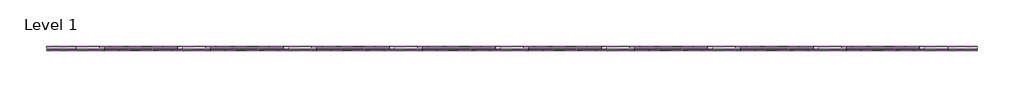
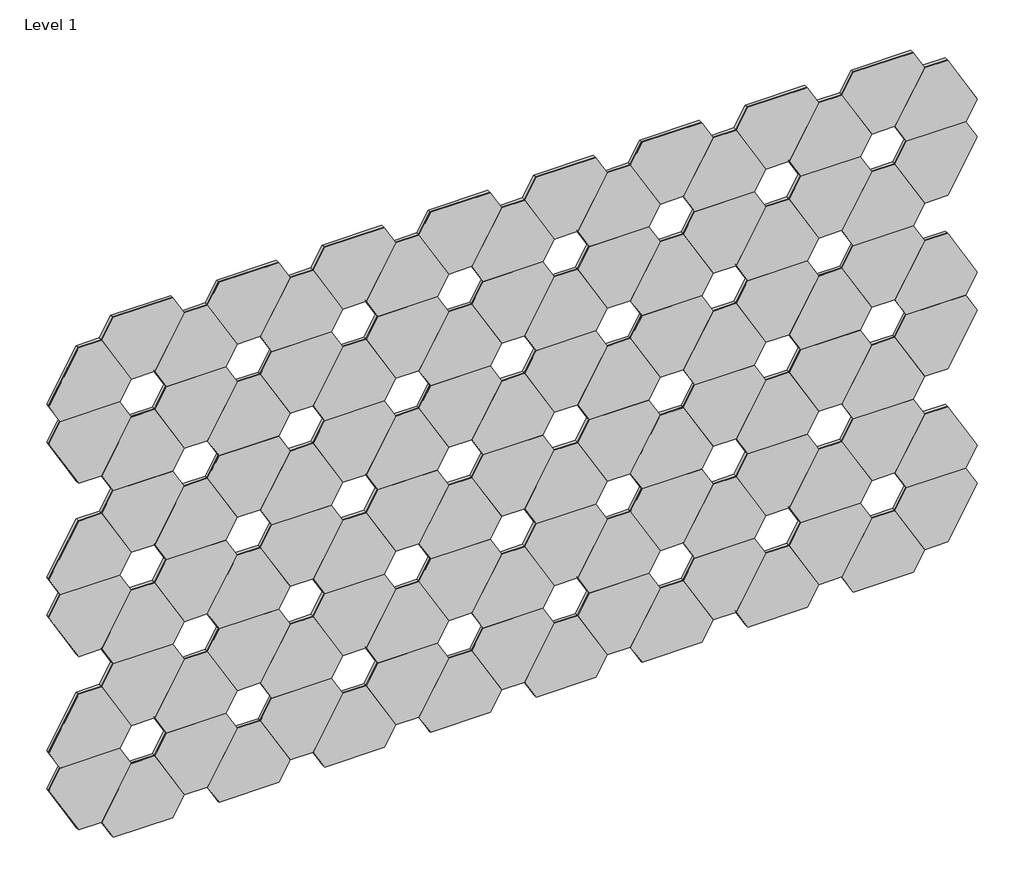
# One storey: 102 proxies.
"""IFC4 building model written with IfcOpenShell, lengths in millimetres."""

import ifcopenshell
import ifcopenshell.guid

model = None  # the IFC model being written
_history = None  # IfcOwnerHistory: only IFC2X3 demands one
_inside = {}  # id of a spatial element -> (the spatial element, [elements in it])
_under = {}  # id of a project, library or spatial element -> (it, [spatial elements below it])
_declared = {}  # id of a project -> (the project, [libraries it declares])
_typed = {}  # id of a type object -> (the type object, [elements of that type])
_made_of = {}  # id of a material, layer set ... -> (it, [elements and type objects made of it])


def new_model(schema):
    """Start an empty IFC model of exactly this schema.

    Asked for "IFC4X3", IfcOpenShell would pick the latest addendum, in which some entities
    have other attributes; the version numbers below select the first issue.
    IFC2X3 requires an IfcOwnerHistory on every rooted entity: one is made here for all.
    """
    global model, _history
    if schema == "IFC4X3":
        model = ifcopenshell.file(schema_version=(4, 3, 0, 0))
    else:
        model = ifcopenshell.file(schema=schema)
    _inside.clear()
    _under.clear()
    _declared.clear()
    _typed.clear()
    _made_of.clear()
    _history = None
    if model.schema == "IFC2X3":
        org = make("IfcOrganization", Name="unknown")
        user = make(
            "IfcPersonAndOrganization",
            ThePerson=make("IfcPerson", FamilyName="unknown"),
            TheOrganization=org,
        )
        app = make(
            "IfcApplication",
            ApplicationDeveloper=org,
            Version="unknown",
            ApplicationFullName="unknown",
            ApplicationIdentifier="unknown",
        )
        _history = make(
            "IfcOwnerHistory",
            OwningUser=user,
            OwningApplication=app,
            ChangeAction="ADDED",
            CreationDate=0,
        )
    return model


def make(cls, **values):
    """One entity of the class cls with the attributes given. An attribute that is None is left unset."""
    return model.create_entity(
        cls, **{name: value for name, value in values.items() if value is not None}
    )


def rooted(cls, **values):
    """An entity with a GlobalId (a new one), such as an element, a storey or a relation."""
    return make(cls, GlobalId=ifcopenshell.guid.new(), OwnerHistory=_history, **values)


def si_unit(unit_type, name, prefix=None):
    """IfcSIUnit, for example si_unit("LENGTHUNIT", "METRE", prefix="MILLI")."""
    return make("IfcSIUnit", UnitType=unit_type, Prefix=prefix, Name=name)


def assignment(units):
    """IfcUnitAssignment: the units of a project."""
    return None if units is None else make("IfcUnitAssignment", Units=units)


def point(xyz):
    """IfcCartesianPoint."""
    return None if xyz is None else make("IfcCartesianPoint", Coordinates=xyz)


def direction(xyz):
    """IfcDirection."""
    return None if xyz is None else make("IfcDirection", DirectionRatios=xyz)


def frame(location, z_axis=None, x_axis=None):
    """IfcAxis2Placement3D, a coordinate frame: its origin and axes. An axis left out is left unset."""
    return make(
        "IfcAxis2Placement3D",
        Location=point(location),
        Axis=direction(z_axis),
        RefDirection=direction(x_axis),
    )


def origin():
    """The frame at (0, 0, 0) with its axes left unset."""
    return frame((0.0, 0.0, 0.0))


def origin_with_axes():
    """The frame at (0, 0, 0) with the z axis (0, 0, 1) and the x axis (1, 0, 0) written out."""
    return frame((0.0, 0.0, 0.0), z_axis=(0.0, 0.0, 1.0), x_axis=(1.0, 0.0, 0.0))


def place(relative_to, where):
    """IfcLocalPlacement: puts the frame where relative to a parent placement (None: the world)."""
    return make(
        "IfcLocalPlacement", PlacementRelTo=relative_to, RelativePlacement=where
    )


def context(
    kind, dimensions, precision=None, world=None, true_north=None, identifier=None
):
    """IfcGeometricRepresentationContext, for example the 3D "Model" context."""
    return make(
        "IfcGeometricRepresentationContext",
        ContextIdentifier=identifier,
        ContextType=kind,
        CoordinateSpaceDimension=dimensions,
        Precision=precision,
        WorldCoordinateSystem=world,
        TrueNorth=true_north,
    )


def project(units=None, contexts=None):
    """IfcProject with its units and contexts."""
    return rooted(
        "IfcProject",
        Name="project",
        RepresentationContexts=contexts,
        UnitsInContext=assignment(units),
    )


def spatial(cls, under=None, at=None, **own):
    """A site, building, storey or space (cls), placed at a placement, below another one or the project."""
    s = rooted(cls, ObjectPlacement=at, **own)
    if under is not None:
        _under.setdefault(under.id(), (under, []))[1].append(s)
    return s


def polyline(points):
    """IfcPolyline through the points."""
    return make("IfcPolyline", Points=[point(p) for p in points])


def outline(outer, holes=None, kind="AREA"):
    """IfcArbitraryClosedProfileDef: a profile drawn as a closed curve; with holes, ...WithVoids."""
    if holes is None:
        return make("IfcArbitraryClosedProfileDef", ProfileType=kind, OuterCurve=outer)
    return make(
        "IfcArbitraryProfileDefWithVoids",
        ProfileType=kind,
        OuterCurve=outer,
        InnerCurves=holes,
    )


def extrude(swept, where, along, depth):
    """IfcExtrudedAreaSolid: the profile swept, set in the frame where, extruded along a direction by depth."""
    return make(
        "IfcExtrudedAreaSolid",
        SweptArea=swept,
        Position=where,
        ExtrudedDirection=direction(along),
        Depth=depth,
    )


def shape(context_of_items, identifier, shape_type, items):
    """IfcShapeRepresentation: the items that make up one representation, for example the "Body"."""
    return make(
        "IfcShapeRepresentation",
        ContextOfItems=context_of_items,
        RepresentationIdentifier=identifier,
        RepresentationType=shape_type,
        Items=items,
    )


def source(mapping_origin, context_of_items, identifier, shape_type, items):
    """IfcRepresentationMap: a shape defined once, which mapped items show again and again."""
    return make(
        "IfcRepresentationMap",
        MappingOrigin=mapping_origin,
        MappedRepresentation=shape(context_of_items, identifier, shape_type, items),
    )


def transform(
    local_origin,
    x_axis=None,
    y_axis=None,
    z_axis=None,
    scale=None,
    scale2=None,
    scale3=None,
    uniform=True,
):
    """IfcCartesianTransformationOperator3D, or its non-uniform kind. x_axis, y_axis, z_axis: its Axis1, 2, 3."""
    if uniform:
        return make(
            "IfcCartesianTransformationOperator3D",
            Axis1=direction(x_axis),
            Axis2=direction(y_axis),
            LocalOrigin=point(local_origin),
            Scale=scale,
            Axis3=direction(z_axis),
        )
    return make(
        "IfcCartesianTransformationOperator3DnonUniform",
        Axis1=direction(x_axis),
        Axis2=direction(y_axis),
        LocalOrigin=point(local_origin),
        Scale=scale,
        Axis3=direction(z_axis),
        Scale2=scale2,
        Scale3=scale3,
    )


def mapped(mapping_source, mapping_target):
    """IfcMappedItem: shows the shape of a source again, moved by a transform."""
    return make(
        "IfcMappedItem", MappingSource=mapping_source, MappingTarget=mapping_target
    )


def made_of(thing, what):
    """Note that an element or type object is made of a material, layer set ...; save() writes the relation."""
    if what is not None:
        _made_of.setdefault(what.id(), (what, []))[1].append(thing)
    return thing


def element(
    cls,
    number,
    at=None,
    inside=None,
    cuts=None,
    type_object=None,
    material=None,
    context=None,
    identifier="Body",
    shape_type=None,
    held_by="IfcProductDefinitionShape",
    body=None,
    shapes=None,
    **own,
):
    """One element of the class cls, such as IfcWall. Its Tag is "e" and its number.

    at: its placement. inside: the storey or other place that contains it. cuts: it is an
    opening in that element (IfcRelVoidsElement). A single representation is given by context,
    identifier, shape_type and body (its items); several are given by shapes. held_by: the class
    of the entity that holds the representations. save() writes the other relations.
    """
    e = rooted(cls, Tag="e%d" % number, ObjectPlacement=at, **own)
    if body is not None:
        shapes = [shape(context, identifier, shape_type, body)]
    if shapes is not None:
        e.Representation = make(held_by, Representations=shapes)
    if inside is not None:
        _inside.setdefault(inside.id(), (inside, []))[1].append(e)
    if cuts is not None:
        rooted(
            "IfcRelVoidsElement", RelatingBuildingElement=cuts, RelatedOpeningElement=e
        )
    if type_object is not None:
        _typed.setdefault(type_object.id(), (type_object, []))[1].append(e)
    return made_of(e, material)


def aggregate(whole, parts):
    """IfcRelAggregates: a whole, such as a stair, and the parts it consists of."""
    return rooted("IfcRelAggregates", RelatingObject=whole, RelatedObjects=parts)


def save(model, path):
    """Write the relations noted so far, then the file.

    IfcRelAggregates (storeys below a building ...), IfcRelContainedInSpatialStructure (elements
    in a storey), IfcRelDefinesByType, IfcRelAssociatesMaterial and IfcRelDeclares: one each for
    every whole, place, type object, material and project.
    """
    for whole, parts in _under.values():
        aggregate(whole, parts)
    for where, things in _inside.values():
        rooted(
            "IfcRelContainedInSpatialStructure",
            RelatedElements=things,
            RelatingStructure=where,
        )
    for kind, things in _typed.values():
        rooted("IfcRelDefinesByType", RelatedObjects=things, RelatingType=kind)
    for what, things in _made_of.values():
        rooted("IfcRelAssociatesMaterial", RelatedObjects=things, RelatingMaterial=what)
    for by, libraries in _declared.values():
        rooted("IfcRelDeclares", RelatingContext=by, RelatedDefinitions=libraries)
    model.write(path)


def aro_block_2_8349c359(model_context):
    return source(origin(), model_context, "Body", "SweptSolid", [
        extrude(outline(polyline([(37.9343915, 134.7319022), (135.6484457, -34.5138044), (97.7140543, -100.2180978), (-97.7140543, -100.2180978), (-135.6484457, -34.5138044), (-37.9343915, 134.7319022), (37.9343915, 134.7319022)])), frame((0.0, 0.0, 10.0210937), z_axis=(0.0, 0.0, 1.0), x_axis=(1.0, 0.0, 0.0)), (0.0, 0.0, 1.0), 2.9765625),
        extrude(outline(polyline([(-97.7140543, -100.2180978), (-135.6484457, -34.5138044), (-37.9343915, 134.7319022), (37.9343915, 134.7319022), (135.6484457, -34.5138044), (97.7140543, -100.2180978), (-97.7140543, -100.2180978)])), origin_with_axes(), (0.0, 0.0, 1.0), 10.0210938),
    ])


model = new_model("IFC4")

# Units and contexts
model_context = context("Model", 3, world=origin())
ifc_project = project(units=[si_unit("LENGTHUNIT", "METRE", prefix="MILLI")], contexts=[model_context])

# Site, building, storey
site = spatial("IfcSite", under=ifc_project)
building = spatial("IfcBuilding", under=site)
storey = spatial("IfcBuildingStorey", under=building, Name="Level 1", Elevation=0.0)

# Proxies
placement = place(None, origin())
aro_block_2_shape = aro_block_2_8349c359(model_context)
element("IfcBuildingElementProxy", 1, Name="FilzFelt_ARO_Block 2 : ARO Block 2", ObjectType="FilzFelt_ARO_Block 2 : ARO Block 2", at=placement, inside=storey, context=model_context, shape_type="MappedRepresentation", body=[
    mapped(aro_block_2_shape, transform((-8417.4823723, -3152.3339335, 734.21875), x_axis=(1.0, 0.0, 0.0), y_axis=(0.0, 0.0, 1.0), z_axis=(0.0, -1.0, 0.0))),
])
element("IfcBuildingElementProxy", 2, Name="FilzFelt_ARO_Block 2 : ARO Block 2", ObjectType="FilzFelt_ARO_Block 2 : ARO Block 2", at=placement, inside=storey, context=model_context, shape_type="MappedRepresentation", body=[
    mapped(aro_block_2_shape, transform((-8591.0652095, -3152.3339335, 834.4368478), x_axis=(-1.0, 0.0, 0.0), y_axis=(0.0, 0.0, -1.0), z_axis=(0.0, -1.0, 0.0))),
])
element("IfcBuildingElementProxy", 3, Name="FilzFelt_ARO_Block 2 : ARO Block 2", ObjectType="FilzFelt_ARO_Block 2 : ARO Block 2", at=placement, inside=storey, context=model_context, shape_type="MappedRepresentation", body=[
    mapped(aro_block_2_shape, transform((-8591.0652095, -3152.3339335, 1034.8730434), x_axis=(1.0, 0.0, 0.0), y_axis=(0.0, 0.0, 1.0), z_axis=(0.0, -1.0, 0.0))),
])
element("IfcBuildingElementProxy", 4, Name="FilzFelt_ARO_Block 2 : ARO Block 2", ObjectType="FilzFelt_ARO_Block 2 : ARO Block 2", at=placement, inside=storey, context=model_context, shape_type="MappedRepresentation", body=[
    mapped(aro_block_2_shape, transform((-8417.4823723, -3152.3339335, 1135.0911412), x_axis=(-1.0, 0.0, 0.0), y_axis=(0.0, 0.0, -1.0), z_axis=(0.0, -1.0, 0.0))),
])
element("IfcBuildingElementProxy", 5, Name="FilzFelt_ARO_Block 2 : ARO Block 2", ObjectType="FilzFelt_ARO_Block 2 : ARO Block 2", at=placement, inside=storey, context=model_context, shape_type="MappedRepresentation", body=[
    mapped(aro_block_2_shape, transform((-8243.899535, -3152.3339335, 1034.8730434), x_axis=(1.0, 0.0, 0.0), y_axis=(0.0, 0.0, 1.0), z_axis=(0.0, -1.0, 0.0))),
])
element("IfcBuildingElementProxy", 6, Name="FilzFelt_ARO_Block 2 : ARO Block 2", ObjectType="FilzFelt_ARO_Block 2 : ARO Block 2", at=placement, inside=storey, context=model_context, shape_type="MappedRepresentation", body=[
    mapped(aro_block_2_shape, transform((-8243.899535, -3152.3339335, 834.4368478), x_axis=(-1.0, 0.0, 0.0), y_axis=(0.0, 0.0, -1.0), z_axis=(0.0, -1.0, 0.0))),
])
element("IfcBuildingElementProxy", 7, Name="FilzFelt_ARO_Block 2 : ARO Block 2", ObjectType="FilzFelt_ARO_Block 2 : ARO Block 2", at=placement, inside=storey, context=model_context, shape_type="MappedRepresentation", body=[
    mapped(aro_block_2_shape, transform((-8070.3166978, -3152.3339335, 1135.0911412), x_axis=(-1.0, 0.0, 0.0), y_axis=(0.0, 0.0, -1.0), z_axis=(0.0, -1.0, 0.0))),
])
element("IfcBuildingElementProxy", 8, Name="FilzFelt_ARO_Block 2 : ARO Block 2", ObjectType="FilzFelt_ARO_Block 2 : ARO Block 2", at=placement, inside=storey, context=model_context, shape_type="MappedRepresentation", body=[
    mapped(aro_block_2_shape, transform((-8070.3166978, -3152.3339335, 1335.5273368), x_axis=(1.0, 0.0, 0.0), y_axis=(0.0, 0.0, 1.0), z_axis=(0.0, -1.0, 0.0))),
])
element("IfcBuildingElementProxy", 9, Name="FilzFelt_ARO_Block 2 : ARO Block 2", ObjectType="FilzFelt_ARO_Block 2 : ARO Block 2", at=placement, inside=storey, context=model_context, shape_type="MappedRepresentation", body=[
    mapped(aro_block_2_shape, transform((-7896.7338606, -3152.3339335, 1034.8730434), x_axis=(1.0, 0.0, 0.0), y_axis=(0.0, 0.0, 1.0), z_axis=(0.0, -1.0, 0.0))),
])
element("IfcBuildingElementProxy", 10, Name="FilzFelt_ARO_Block 2 : ARO Block 2", ObjectType="FilzFelt_ARO_Block 2 : ARO Block 2", at=placement, inside=storey, context=model_context, shape_type="MappedRepresentation", body=[
    mapped(aro_block_2_shape, transform((-7896.7338606, -3152.3339335, 1435.7454346), x_axis=(-1.0, 0.0, 0.0), y_axis=(0.0, 0.0, -1.0), z_axis=(0.0, -1.0, 0.0))),
])
element("IfcBuildingElementProxy", 11, Name="FilzFelt_ARO_Block 2 : ARO Block 2", ObjectType="FilzFelt_ARO_Block 2 : ARO Block 2", at=placement, inside=storey, context=model_context, shape_type="MappedRepresentation", body=[
    mapped(aro_block_2_shape, transform((-7723.1510233, -3152.3339335, 1335.5273368), x_axis=(-0.5000000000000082, 0.0, -0.8660254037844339), y_axis=(0.8660254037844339, 0.0, -0.5000000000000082), z_axis=(0.0, -1.0, 0.0))),
])
element("IfcBuildingElementProxy", 12, Name="FilzFelt_ARO_Block 2 : ARO Block 2", ObjectType="FilzFelt_ARO_Block 2 : ARO Block 2", at=placement, inside=storey, context=model_context, shape_type="MappedRepresentation", body=[
    mapped(aro_block_2_shape, transform((-7723.1510233, -3152.3339335, 1135.0911412), x_axis=(-1.0, 0.0, 0.0), y_axis=(0.0, 0.0, -1.0), z_axis=(0.0, -1.0, 0.0))),
])
element("IfcBuildingElementProxy", 13, Name="FilzFelt_ARO_Block 2 : ARO Block 2", ObjectType="FilzFelt_ARO_Block 2 : ARO Block 2", at=placement, inside=storey, context=model_context, shape_type="MappedRepresentation", body=[
    mapped(aro_block_2_shape, transform((-7549.5681861, -3152.3339335, 834.4368478), x_axis=(-1.0, 0.0, 0.0), y_axis=(0.0, 0.0, -1.0), z_axis=(0.0, -1.0, 0.0))),
])
element("IfcBuildingElementProxy", 14, Name="FilzFelt_ARO_Block 2 : ARO Block 2", ObjectType="FilzFelt_ARO_Block 2 : ARO Block 2", at=placement, inside=storey, context=model_context, shape_type="MappedRepresentation", body=[
    mapped(aro_block_2_shape, transform((-7549.5681861, -3152.3339335, 1034.8730434), x_axis=(1.0, 0.0, 0.0), y_axis=(0.0, 0.0, 1.0), z_axis=(0.0, -1.0, 0.0))),
])
element("IfcBuildingElementProxy", 15, Name="FilzFelt_ARO_Block 2 : ARO Block 2", ObjectType="FilzFelt_ARO_Block 2 : ARO Block 2", at=placement, inside=storey, context=model_context, shape_type="MappedRepresentation", body=[
    mapped(aro_block_2_shape, transform((-7375.9853489, -3152.3339335, 734.21875), x_axis=(1.0, 0.0, 0.0), y_axis=(0.0, 0.0, 1.0), z_axis=(0.0, -1.0, 0.0))),
])
element("IfcBuildingElementProxy", 16, Name="FilzFelt_ARO_Block 2 : ARO Block 2", ObjectType="FilzFelt_ARO_Block 2 : ARO Block 2", at=placement, inside=storey, context=model_context, shape_type="MappedRepresentation", body=[
    mapped(aro_block_2_shape, transform((-7375.9853489, -3152.3339335, 1135.0911412), x_axis=(-1.0, 0.0, 0.0), y_axis=(0.0, 0.0, -1.0), z_axis=(0.0, -1.0, 0.0))),
])
element("IfcBuildingElementProxy", 17, Name="FilzFelt_ARO_Block 2 : ARO Block 2", ObjectType="FilzFelt_ARO_Block 2 : ARO Block 2", at=placement, inside=storey, context=model_context, shape_type="MappedRepresentation", body=[
    mapped(aro_block_2_shape, transform((-7202.4025116, -3152.3339335, 834.4368478), x_axis=(-1.0, 0.0, 0.0), y_axis=(0.0, 0.0, -1.0), z_axis=(0.0, -1.0, 0.0))),
])
element("IfcBuildingElementProxy", 18, Name="FilzFelt_ARO_Block 2 : ARO Block 2", ObjectType="FilzFelt_ARO_Block 2 : ARO Block 2", at=placement, inside=storey, context=model_context, shape_type="MappedRepresentation", body=[
    mapped(aro_block_2_shape, transform((-7202.4025116, -3152.3339335, 1034.8730434), x_axis=(1.0, 0.0, 0.0), y_axis=(0.0, 0.0, 1.0), z_axis=(0.0, -1.0, 0.0))),
])
element("IfcBuildingElementProxy", 19, Name="FilzFelt_ARO_Block 2 : ARO Block 2", ObjectType="FilzFelt_ARO_Block 2 : ARO Block 2", at=placement, inside=storey, context=model_context, shape_type="MappedRepresentation", body=[
    mapped(aro_block_2_shape, transform((-7028.8196744, -3152.3339335, 1135.0911412), x_axis=(-1.0, 0.0, 0.0), y_axis=(0.0, 0.0, -1.0), z_axis=(0.0, -1.0, 0.0))),
])
element("IfcBuildingElementProxy", 20, Name="FilzFelt_ARO_Block 2 : ARO Block 2", ObjectType="FilzFelt_ARO_Block 2 : ARO Block 2", at=placement, inside=storey, context=model_context, shape_type="MappedRepresentation", body=[
    mapped(aro_block_2_shape, transform((-6855.2368371, -3152.3339335, 1034.8730434), x_axis=(1.0, 0.0, 0.0), y_axis=(0.0, 0.0, 1.0), z_axis=(0.0, -1.0, 0.0))),
])
element("IfcBuildingElementProxy", 21, Name="FilzFelt_ARO_Block 2 : ARO Block 2", ObjectType="FilzFelt_ARO_Block 2 : ARO Block 2", at=placement, inside=storey, context=model_context, shape_type="MappedRepresentation", body=[
    mapped(aro_block_2_shape, transform((-6681.6539999, -3152.3339335, 1135.0911412), x_axis=(-1.0, 0.0, 0.0), y_axis=(0.0, 0.0, -1.0), z_axis=(0.0, -1.0, 0.0))),
])
element("IfcBuildingElementProxy", 22, Name="FilzFelt_ARO_Block 2 : ARO Block 2", ObjectType="FilzFelt_ARO_Block 2 : ARO Block 2", at=placement, inside=storey, context=model_context, shape_type="MappedRepresentation", body=[
    mapped(aro_block_2_shape, transform((-7028.8196744, -3152.3339335, 1335.5273368), x_axis=(1.0, 0.0, 0.0), y_axis=(0.0, 0.0, 1.0), z_axis=(0.0, -1.0, 0.0))),
])
element("IfcBuildingElementProxy", 23, Name="FilzFelt_ARO_Block 2 : ARO Block 2", ObjectType="FilzFelt_ARO_Block 2 : ARO Block 2", at=placement, inside=storey, context=model_context, shape_type="MappedRepresentation", body=[
    mapped(aro_block_2_shape, transform((-6681.6539999, -3152.3339335, 1335.5273368), x_axis=(1.0, 0.0, 0.0), y_axis=(0.0, 0.0, 1.0), z_axis=(0.0, -1.0, 0.0))),
])
element("IfcBuildingElementProxy", 24, Name="FilzFelt_ARO_Block 2 : ARO Block 2", ObjectType="FilzFelt_ARO_Block 2 : ARO Block 2", at=placement, inside=storey, context=model_context, shape_type="MappedRepresentation", body=[
    mapped(aro_block_2_shape, transform((-6855.2368371, -3152.3339335, 1435.7454346), x_axis=(-1.0, 0.0, 0.0), y_axis=(0.0, 0.0, -1.0), z_axis=(0.0, -1.0, 0.0))),
])
element("IfcBuildingElementProxy", 25, Name="FilzFelt_ARO_Block 2 : ARO Block 2", ObjectType="FilzFelt_ARO_Block 2 : ARO Block 2", at=placement, inside=storey, context=model_context, shape_type="MappedRepresentation", body=[
    mapped(aro_block_2_shape, transform((-6508.0711627, -3152.3339335, 1034.8730434), x_axis=(1.0, 0.0, 0.0), y_axis=(0.0, 0.0, 1.0), z_axis=(0.0, -1.0, 0.0))),
])
element("IfcBuildingElementProxy", 26, Name="FilzFelt_ARO_Block 2 : ARO Block 2", ObjectType="FilzFelt_ARO_Block 2 : ARO Block 2", at=placement, inside=storey, context=model_context, shape_type="MappedRepresentation", body=[
    mapped(aro_block_2_shape, transform((-6508.0711627, -3152.3339335, 834.4368478), x_axis=(-1.0, 0.0, 0.0), y_axis=(0.0, 0.0, -1.0), z_axis=(0.0, -1.0, 0.0))),
])
element("IfcBuildingElementProxy", 27, Name="FilzFelt_ARO_Block 2 : ARO Block 2", ObjectType="FilzFelt_ARO_Block 2 : ARO Block 2", at=placement, inside=storey, context=model_context, shape_type="MappedRepresentation", body=[
    mapped(aro_block_2_shape, transform((-6334.4883254, -3152.3339335, 734.21875), x_axis=(-0.5000000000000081, 0.0, -0.866025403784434), y_axis=(0.866025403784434, 0.0, -0.5000000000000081), z_axis=(0.0, -1.0, 0.0))),
])
element("IfcBuildingElementProxy", 28, Name="FilzFelt_ARO_Block 2 : ARO Block 2", ObjectType="FilzFelt_ARO_Block 2 : ARO Block 2", at=placement, inside=storey, context=model_context, shape_type="MappedRepresentation", body=[
    mapped(aro_block_2_shape, transform((-6334.4883254, -3152.3339335, 1135.0911412), x_axis=(-1.0, 0.0, 0.0), y_axis=(0.0, 0.0, -1.0), z_axis=(0.0, -1.0, 0.0))),
])
element("IfcBuildingElementProxy", 29, Name="FilzFelt_ARO_Block 2 : ARO Block 2", ObjectType="FilzFelt_ARO_Block 2 : ARO Block 2", at=placement, inside=storey, context=model_context, shape_type="MappedRepresentation", body=[
    mapped(aro_block_2_shape, transform((-6160.9054882, -3152.3339335, 834.4368478), x_axis=(-1.0, 0.0, 0.0), y_axis=(0.0, 0.0, -1.0), z_axis=(0.0, -1.0, 0.0))),
])
element("IfcBuildingElementProxy", 30, Name="FilzFelt_ARO_Block 2 : ARO Block 2", ObjectType="FilzFelt_ARO_Block 2 : ARO Block 2", at=placement, inside=storey, context=model_context, shape_type="MappedRepresentation", body=[
    mapped(aro_block_2_shape, transform((-6160.9054882, -3152.3339335, 1034.8730434), x_axis=(1.0, 0.0, 0.0), y_axis=(0.0, 0.0, 1.0), z_axis=(0.0, -1.0, 0.0))),
])
element("IfcBuildingElementProxy", 31, Name="FilzFelt_ARO_Block 2 : ARO Block 2", ObjectType="FilzFelt_ARO_Block 2 : ARO Block 2", at=placement, inside=storey, context=model_context, shape_type="MappedRepresentation", body=[
    mapped(aro_block_2_shape, transform((-5987.3226509, -3152.3339335, 1335.5273368), x_axis=(1.0, 0.0, 0.0), y_axis=(0.0, 0.0, 1.0), z_axis=(0.0, -1.0, 0.0))),
])
element("IfcBuildingElementProxy", 32, Name="FilzFelt_ARO_Block 2 : ARO Block 2", ObjectType="FilzFelt_ARO_Block 2 : ARO Block 2", at=placement, inside=storey, context=model_context, shape_type="MappedRepresentation", body=[
    mapped(aro_block_2_shape, transform((-5987.3226509, -3152.3339335, 1135.0911412), x_axis=(-1.0, 0.0, 0.0), y_axis=(0.0, 0.0, -1.0), z_axis=(0.0, -1.0, 0.0))),
])
element("IfcBuildingElementProxy", 33, Name="FilzFelt_ARO_Block 2 : ARO Block 2", ObjectType="FilzFelt_ARO_Block 2 : ARO Block 2", at=placement, inside=storey, context=model_context, shape_type="MappedRepresentation", body=[
    mapped(aro_block_2_shape, transform((-5813.7398137, -3152.3339335, 1435.7454346), x_axis=(-1.0, 0.0, 0.0), y_axis=(0.0, 0.0, -1.0), z_axis=(0.0, -1.0, 0.0))),
])
element("IfcBuildingElementProxy", 34, Name="FilzFelt_ARO_Block 2 : ARO Block 2", ObjectType="FilzFelt_ARO_Block 2 : ARO Block 2", at=placement, inside=storey, context=model_context, shape_type="MappedRepresentation", body=[
    mapped(aro_block_2_shape, transform((-5813.7398137, -3152.3339335, 1034.8730434), x_axis=(1.0, 0.0, 0.0), y_axis=(0.0, 0.0, 1.0), z_axis=(0.0, -1.0, 0.0))),
])
element("IfcBuildingElementProxy", 35, Name="FilzFelt_ARO_Block 2 : ARO Block 2", ObjectType="FilzFelt_ARO_Block 2 : ARO Block 2", at=placement, inside=storey, context=model_context, shape_type="MappedRepresentation", body=[
    mapped(aro_block_2_shape, transform((-8417.4823723, -3152.3339335, 1335.5273368), x_axis=(1.0, 0.0, 0.0), y_axis=(0.0, 0.0, 1.0), z_axis=(0.0, -1.0, 0.0))),
])
element("IfcBuildingElementProxy", 36, Name="FilzFelt_ARO_Block 2 : ARO Block 2", ObjectType="FilzFelt_ARO_Block 2 : ARO Block 2", at=placement, inside=storey, context=model_context, shape_type="MappedRepresentation", body=[
    mapped(aro_block_2_shape, transform((-8243.899535, -3152.3339335, 1435.7454346), x_axis=(-1.0, 0.0, 0.0), y_axis=(0.0, 0.0, -1.0), z_axis=(0.0, -1.0, 0.0))),
])
element("IfcBuildingElementProxy", 37, Name="FilzFelt_ARO_Block 2 : ARO Block 2", ObjectType="FilzFelt_ARO_Block 2 : ARO Block 2", at=placement, inside=storey, context=model_context, shape_type="MappedRepresentation", body=[
    mapped(aro_block_2_shape, transform((-8591.0652095, -3152.3339335, 1435.7454346), x_axis=(-1.0, 0.0, 0.0), y_axis=(0.0, 0.0, -1.0), z_axis=(0.0, -1.0, 0.0))),
])
element("IfcBuildingElementProxy", 38, Name="FilzFelt_ARO_Block 2 : ARO Block 2", ObjectType="FilzFelt_ARO_Block 2 : ARO Block 2", at=placement, inside=storey, context=model_context, shape_type="MappedRepresentation", body=[
    mapped(aro_block_2_shape, transform((-8591.0652095, -3152.3339335, 1636.1816303), x_axis=(1.0, 0.0, 0.0), y_axis=(0.0, 0.0, 1.0), z_axis=(0.0, -1.0, 0.0))),
])
element("IfcBuildingElementProxy", 39, Name="FilzFelt_ARO_Block 2 : ARO Block 2", ObjectType="FilzFelt_ARO_Block 2 : ARO Block 2", at=placement, inside=storey, context=model_context, shape_type="MappedRepresentation", body=[
    mapped(aro_block_2_shape, transform((-8243.899535, -3152.3339335, 1636.1816303), x_axis=(1.0, 0.0, 0.0), y_axis=(0.0, 0.0, 1.0), z_axis=(0.0, -1.0, 0.0))),
])
element("IfcBuildingElementProxy", 40, Name="FilzFelt_ARO_Block 2 : ARO Block 2", ObjectType="FilzFelt_ARO_Block 2 : ARO Block 2", at=placement, inside=storey, context=model_context, shape_type="MappedRepresentation", body=[
    mapped(aro_block_2_shape, transform((-8417.4823723, -3152.3339335, 1736.3997281), x_axis=(-1.0, 0.0, 0.0), y_axis=(0.0, 0.0, -1.0), z_axis=(0.0, -1.0, 0.0))),
])
element("IfcBuildingElementProxy", 41, Name="FilzFelt_ARO_Block 2 : ARO Block 2", ObjectType="FilzFelt_ARO_Block 2 : ARO Block 2", at=placement, inside=storey, context=model_context, shape_type="MappedRepresentation", body=[
    mapped(aro_block_2_shape, transform((-8070.3166978, -3152.3339335, 1736.3997281), x_axis=(-1.0, 0.0, 0.0), y_axis=(0.0, 0.0, -1.0), z_axis=(0.0, -1.0, 0.0))),
])
element("IfcBuildingElementProxy", 42, Name="FilzFelt_ARO_Block 2 : ARO Block 2", ObjectType="FilzFelt_ARO_Block 2 : ARO Block 2", at=placement, inside=storey, context=model_context, shape_type="MappedRepresentation", body=[
    mapped(aro_block_2_shape, transform((-8070.3166978, -3152.3339335, 1936.8359237), x_axis=(1.0, 0.0, 0.0), y_axis=(0.0, 0.0, 1.0), z_axis=(0.0, -1.0, 0.0))),
])
element("IfcBuildingElementProxy", 43, Name="FilzFelt_ARO_Block 2 : ARO Block 2", ObjectType="FilzFelt_ARO_Block 2 : ARO Block 2", at=placement, inside=storey, context=model_context, shape_type="MappedRepresentation", body=[
    mapped(aro_block_2_shape, transform((-7896.7338606, -3152.3339335, 1636.1816303), x_axis=(1.0, 0.0, 0.0), y_axis=(0.0, 0.0, 1.0), z_axis=(0.0, -1.0, 0.0))),
])
element("IfcBuildingElementProxy", 44, Name="FilzFelt_ARO_Block 2 : ARO Block 2", ObjectType="FilzFelt_ARO_Block 2 : ARO Block 2", at=placement, inside=storey, context=model_context, shape_type="MappedRepresentation", body=[
    mapped(aro_block_2_shape, transform((-7896.7338606, -3152.3339335, 2037.0540215), x_axis=(-1.0, 0.0, 0.0), y_axis=(0.0, 0.0, -1.0), z_axis=(0.0, -1.0, 0.0))),
])
element("IfcBuildingElementProxy", 45, Name="FilzFelt_ARO_Block 2 : ARO Block 2", ObjectType="FilzFelt_ARO_Block 2 : ARO Block 2", at=placement, inside=storey, context=model_context, shape_type="MappedRepresentation", body=[
    mapped(aro_block_2_shape, transform((-7723.1510233, -3152.3339335, 1936.8359237), x_axis=(-0.5000000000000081, 0.0, -0.866025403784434), y_axis=(0.866025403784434, 0.0, -0.5000000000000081), z_axis=(0.0, -1.0, 0.0))),
])
element("IfcBuildingElementProxy", 46, Name="FilzFelt_ARO_Block 2 : ARO Block 2", ObjectType="FilzFelt_ARO_Block 2 : ARO Block 2", at=placement, inside=storey, context=model_context, shape_type="MappedRepresentation", body=[
    mapped(aro_block_2_shape, transform((-7723.1510233, -3152.3339335, 1736.3997281), x_axis=(-1.0, 0.0, 0.0), y_axis=(0.0, 0.0, -1.0), z_axis=(0.0, -1.0, 0.0))),
])
element("IfcBuildingElementProxy", 47, Name="FilzFelt_ARO_Block 2 : ARO Block 2", ObjectType="FilzFelt_ARO_Block 2 : ARO Block 2", at=placement, inside=storey, context=model_context, shape_type="MappedRepresentation", body=[
    mapped(aro_block_2_shape, transform((-7549.5681861, -3152.3339335, 1435.7454346), x_axis=(-1.0, 0.0, 0.0), y_axis=(0.0, 0.0, -1.0), z_axis=(0.0, -1.0, 0.0))),
])
element("IfcBuildingElementProxy", 48, Name="FilzFelt_ARO_Block 2 : ARO Block 2", ObjectType="FilzFelt_ARO_Block 2 : ARO Block 2", at=placement, inside=storey, context=model_context, shape_type="MappedRepresentation", body=[
    mapped(aro_block_2_shape, transform((-7549.5681861, -3152.3339335, 1636.1816303), x_axis=(1.0, 0.0, 0.0), y_axis=(0.0, 0.0, 1.0), z_axis=(0.0, -1.0, 0.0))),
])
element("IfcBuildingElementProxy", 49, Name="FilzFelt_ARO_Block 2 : ARO Block 2", ObjectType="FilzFelt_ARO_Block 2 : ARO Block 2", at=placement, inside=storey, context=model_context, shape_type="MappedRepresentation", body=[
    mapped(aro_block_2_shape, transform((-7375.9853489, -3152.3339335, 1335.5273368), x_axis=(1.0, 0.0, 0.0), y_axis=(0.0, 0.0, 1.0), z_axis=(0.0, -1.0, 0.0))),
])
element("IfcBuildingElementProxy", 50, Name="FilzFelt_ARO_Block 2 : ARO Block 2", ObjectType="FilzFelt_ARO_Block 2 : ARO Block 2", at=placement, inside=storey, context=model_context, shape_type="MappedRepresentation", body=[
    mapped(aro_block_2_shape, transform((-7375.9853489, -3152.3339335, 1736.3997281), x_axis=(-1.0, 0.0, 0.0), y_axis=(0.0, 0.0, -1.0), z_axis=(0.0, -1.0, 0.0))),
])
element("IfcBuildingElementProxy", 51, Name="FilzFelt_ARO_Block 2 : ARO Block 2", ObjectType="FilzFelt_ARO_Block 2 : ARO Block 2", at=placement, inside=storey, context=model_context, shape_type="MappedRepresentation", body=[
    mapped(aro_block_2_shape, transform((-7202.4025116, -3152.3339335, 1435.7454346), x_axis=(-1.0, 0.0, 0.0), y_axis=(0.0, 0.0, -1.0), z_axis=(0.0, -1.0, 0.0))),
])
element("IfcBuildingElementProxy", 52, Name="FilzFelt_ARO_Block 2 : ARO Block 2", ObjectType="FilzFelt_ARO_Block 2 : ARO Block 2", at=placement, inside=storey, context=model_context, shape_type="MappedRepresentation", body=[
    mapped(aro_block_2_shape, transform((-7202.4025116, -3152.3339335, 1636.1816303), x_axis=(1.0, 0.0, 0.0), y_axis=(0.0, 0.0, 1.0), z_axis=(0.0, -1.0, 0.0))),
])
element("IfcBuildingElementProxy", 53, Name="FilzFelt_ARO_Block 2 : ARO Block 2", ObjectType="FilzFelt_ARO_Block 2 : ARO Block 2", at=placement, inside=storey, context=model_context, shape_type="MappedRepresentation", body=[
    mapped(aro_block_2_shape, transform((-6855.2368371, -3152.3339335, 1636.1816303), x_axis=(1.0, 0.0, 0.0), y_axis=(0.0, 0.0, 1.0), z_axis=(0.0, -1.0, 0.0))),
])
element("IfcBuildingElementProxy", 54, Name="FilzFelt_ARO_Block 2 : ARO Block 2", ObjectType="FilzFelt_ARO_Block 2 : ARO Block 2", at=placement, inside=storey, context=model_context, shape_type="MappedRepresentation", body=[
    mapped(aro_block_2_shape, transform((-7028.8196744, -3152.3339335, 1736.3997281), x_axis=(-1.0, 0.0, 0.0), y_axis=(0.0, 0.0, -1.0), z_axis=(0.0, -1.0, 0.0))),
])
element("IfcBuildingElementProxy", 55, Name="FilzFelt_ARO_Block 2 : ARO Block 2", ObjectType="FilzFelt_ARO_Block 2 : ARO Block 2", at=placement, inside=storey, context=model_context, shape_type="MappedRepresentation", body=[
    mapped(aro_block_2_shape, transform((-6681.6539999, -3152.3339335, 1736.3997281), x_axis=(-1.0, 0.0, 0.0), y_axis=(0.0, 0.0, -1.0), z_axis=(0.0, -1.0, 0.0))),
])
element("IfcBuildingElementProxy", 56, Name="FilzFelt_ARO_Block 2 : ARO Block 2", ObjectType="FilzFelt_ARO_Block 2 : ARO Block 2", at=placement, inside=storey, context=model_context, shape_type="MappedRepresentation", body=[
    mapped(aro_block_2_shape, transform((-7028.8196744, -3152.3339335, 1936.8359237), x_axis=(1.0, 0.0, 0.0), y_axis=(0.0, 0.0, 1.0), z_axis=(0.0, -1.0, 0.0))),
])
element("IfcBuildingElementProxy", 57, Name="FilzFelt_ARO_Block 2 : ARO Block 2", ObjectType="FilzFelt_ARO_Block 2 : ARO Block 2", at=placement, inside=storey, context=model_context, shape_type="MappedRepresentation", body=[
    mapped(aro_block_2_shape, transform((-6855.2368371, -3152.3339335, 2037.0540215), x_axis=(-1.0, 0.0, 0.0), y_axis=(0.0, 0.0, -1.0), z_axis=(0.0, -1.0, 0.0))),
])
element("IfcBuildingElementProxy", 58, Name="FilzFelt_ARO_Block 2 : ARO Block 2", ObjectType="FilzFelt_ARO_Block 2 : ARO Block 2", at=placement, inside=storey, context=model_context, shape_type="MappedRepresentation", body=[
    mapped(aro_block_2_shape, transform((-6681.6539999, -3152.3339335, 1936.8359237), x_axis=(1.0, 0.0, 0.0), y_axis=(0.0, 0.0, 1.0), z_axis=(0.0, -1.0, 0.0))),
])
element("IfcBuildingElementProxy", 59, Name="FilzFelt_ARO_Block 2 : ARO Block 2", ObjectType="FilzFelt_ARO_Block 2 : ARO Block 2", at=placement, inside=storey, context=model_context, shape_type="MappedRepresentation", body=[
    mapped(aro_block_2_shape, transform((-6508.0711627, -3152.3339335, 1636.1816303), x_axis=(1.0, 0.0, 0.0), y_axis=(0.0, 0.0, 1.0), z_axis=(0.0, -1.0, 0.0))),
])
element("IfcBuildingElementProxy", 60, Name="FilzFelt_ARO_Block 2 : ARO Block 2", ObjectType="FilzFelt_ARO_Block 2 : ARO Block 2", at=placement, inside=storey, context=model_context, shape_type="MappedRepresentation", body=[
    mapped(aro_block_2_shape, transform((-6508.0711627, -3152.3339335, 1435.7454346), x_axis=(-1.0, 0.0, 0.0), y_axis=(0.0, 0.0, -1.0), z_axis=(0.0, -1.0, 0.0))),
])
element("IfcBuildingElementProxy", 61, Name="FilzFelt_ARO_Block 2 : ARO Block 2", ObjectType="FilzFelt_ARO_Block 2 : ARO Block 2", at=placement, inside=storey, context=model_context, shape_type="MappedRepresentation", body=[
    mapped(aro_block_2_shape, transform((-6334.4883254, -3152.3339335, 1335.5273368), x_axis=(-0.5000000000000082, 0.0, -0.8660254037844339), y_axis=(0.8660254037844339, 0.0, -0.5000000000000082), z_axis=(0.0, -1.0, 0.0))),
])
element("IfcBuildingElementProxy", 62, Name="FilzFelt_ARO_Block 2 : ARO Block 2", ObjectType="FilzFelt_ARO_Block 2 : ARO Block 2", at=placement, inside=storey, context=model_context, shape_type="MappedRepresentation", body=[
    mapped(aro_block_2_shape, transform((-6334.4883254, -3152.3339335, 1736.3997281), x_axis=(-1.0, 0.0, 0.0), y_axis=(0.0, 0.0, -1.0), z_axis=(0.0, -1.0, 0.0))),
])
element("IfcBuildingElementProxy", 63, Name="FilzFelt_ARO_Block 2 : ARO Block 2", ObjectType="FilzFelt_ARO_Block 2 : ARO Block 2", at=placement, inside=storey, context=model_context, shape_type="MappedRepresentation", body=[
    mapped(aro_block_2_shape, transform((-6160.9054882, -3152.3339335, 1435.7454346), x_axis=(-1.0, 0.0, 0.0), y_axis=(0.0, 0.0, -1.0), z_axis=(0.0, -1.0, 0.0))),
])
element("IfcBuildingElementProxy", 64, Name="FilzFelt_ARO_Block 2 : ARO Block 2", ObjectType="FilzFelt_ARO_Block 2 : ARO Block 2", at=placement, inside=storey, context=model_context, shape_type="MappedRepresentation", body=[
    mapped(aro_block_2_shape, transform((-6160.9054882, -3152.3339335, 1636.1816303), x_axis=(1.0, 0.0, 0.0), y_axis=(0.0, 0.0, 1.0), z_axis=(0.0, -1.0, 0.0))),
])
element("IfcBuildingElementProxy", 65, Name="FilzFelt_ARO_Block 2 : ARO Block 2", ObjectType="FilzFelt_ARO_Block 2 : ARO Block 2", at=placement, inside=storey, context=model_context, shape_type="MappedRepresentation", body=[
    mapped(aro_block_2_shape, transform((-5987.3226509, -3152.3339335, 1936.8359237), x_axis=(1.0, 0.0, 0.0), y_axis=(0.0, 0.0, 1.0), z_axis=(0.0, -1.0, 0.0))),
])
element("IfcBuildingElementProxy", 66, Name="FilzFelt_ARO_Block 2 : ARO Block 2", ObjectType="FilzFelt_ARO_Block 2 : ARO Block 2", at=placement, inside=storey, context=model_context, shape_type="MappedRepresentation", body=[
    mapped(aro_block_2_shape, transform((-5987.3226509, -3152.3339335, 1736.3997281), x_axis=(-1.0, 0.0, 0.0), y_axis=(0.0, 0.0, -1.0), z_axis=(0.0, -1.0, 0.0))),
])
element("IfcBuildingElementProxy", 67, Name="FilzFelt_ARO_Block 2 : ARO Block 2", ObjectType="FilzFelt_ARO_Block 2 : ARO Block 2", at=placement, inside=storey, context=model_context, shape_type="MappedRepresentation", body=[
    mapped(aro_block_2_shape, transform((-5813.7398137, -3152.3339335, 2037.0540215), x_axis=(-1.0, 0.0, 0.0), y_axis=(0.0, 0.0, -1.0), z_axis=(0.0, -1.0, 0.0))),
])
element("IfcBuildingElementProxy", 68, Name="FilzFelt_ARO_Block 2 : ARO Block 2", ObjectType="FilzFelt_ARO_Block 2 : ARO Block 2", at=placement, inside=storey, context=model_context, shape_type="MappedRepresentation", body=[
    mapped(aro_block_2_shape, transform((-5813.7398137, -3152.3339335, 1636.1816303), x_axis=(1.0, 0.0, 0.0), y_axis=(0.0, 0.0, 1.0), z_axis=(0.0, -1.0, 0.0))),
])
element("IfcBuildingElementProxy", 69, Name="FilzFelt_ARO_Block 2 : ARO Block 2", ObjectType="FilzFelt_ARO_Block 2 : ARO Block 2", at=placement, inside=storey, context=model_context, shape_type="MappedRepresentation", body=[
    mapped(aro_block_2_shape, transform((-8070.3166978, -3152.3339335, 734.21875), x_axis=(1.0, 0.0, 0.0), y_axis=(0.0, 0.0, 1.0), z_axis=(0.0, -1.0, 0.0))),
])
element("IfcBuildingElementProxy", 70, Name="FilzFelt_ARO_Block 2 : ARO Block 2", ObjectType="FilzFelt_ARO_Block 2 : ARO Block 2", at=placement, inside=storey, context=model_context, shape_type="MappedRepresentation", body=[
    mapped(aro_block_2_shape, transform((-8417.4823723, -3152.3339335, 1936.8359237), x_axis=(1.0, 0.0, 0.0), y_axis=(0.0, 0.0, 1.0), z_axis=(0.0, -1.0, 0.0))),
])
element("IfcBuildingElementProxy", 71, Name="FilzFelt_ARO_Block 2 : ARO Block 2", ObjectType="FilzFelt_ARO_Block 2 : ARO Block 2", at=placement, inside=storey, context=model_context, shape_type="MappedRepresentation", body=[
    mapped(aro_block_2_shape, transform((-8591.0652095, -3152.3339335, 2037.0540215), x_axis=(-1.0, 0.0, 0.0), y_axis=(0.0, 0.0, -1.0), z_axis=(0.0, -1.0, 0.0))),
])
element("IfcBuildingElementProxy", 72, Name="FilzFelt_ARO_Block 2 : ARO Block 2", ObjectType="FilzFelt_ARO_Block 2 : ARO Block 2", at=placement, inside=storey, context=model_context, shape_type="MappedRepresentation", body=[
    mapped(aro_block_2_shape, transform((-8591.0652095, -3152.3339335, 2237.4902171), x_axis=(1.0, 0.0, 0.0), y_axis=(0.0, 0.0, 1.0), z_axis=(0.0, -1.0, 0.0))),
])
element("IfcBuildingElementProxy", 73, Name="FilzFelt_ARO_Block 2 : ARO Block 2", ObjectType="FilzFelt_ARO_Block 2 : ARO Block 2", at=placement, inside=storey, context=model_context, shape_type="MappedRepresentation", body=[
    mapped(aro_block_2_shape, transform((-8417.4823723, -3152.3339335, 2337.7083149), x_axis=(-1.0, 0.0, 0.0), y_axis=(0.0, 0.0, -1.0), z_axis=(0.0, -1.0, 0.0))),
])
element("IfcBuildingElementProxy", 74, Name="FilzFelt_ARO_Block 2 : ARO Block 2", ObjectType="FilzFelt_ARO_Block 2 : ARO Block 2", at=placement, inside=storey, context=model_context, shape_type="MappedRepresentation", body=[
    mapped(aro_block_2_shape, transform((-8243.899535, -3152.3339335, 2237.4902171), x_axis=(1.0, 0.0, 0.0), y_axis=(0.0, 0.0, 1.0), z_axis=(0.0, -1.0, 0.0))),
])
element("IfcBuildingElementProxy", 75, Name="FilzFelt_ARO_Block 2 : ARO Block 2", ObjectType="FilzFelt_ARO_Block 2 : ARO Block 2", at=placement, inside=storey, context=model_context, shape_type="MappedRepresentation", body=[
    mapped(aro_block_2_shape, transform((-8243.899535, -3152.3339335, 2037.0540215), x_axis=(-1.0, 0.0, 0.0), y_axis=(0.0, 0.0, -1.0), z_axis=(0.0, -1.0, 0.0))),
])
element("IfcBuildingElementProxy", 76, Name="FilzFelt_ARO_Block 2 : ARO Block 2", ObjectType="FilzFelt_ARO_Block 2 : ARO Block 2", at=placement, inside=storey, context=model_context, shape_type="MappedRepresentation", body=[
    mapped(aro_block_2_shape, transform((-8070.3166978, -3152.3339335, 2337.7083149), x_axis=(-1.0, 0.0, 0.0), y_axis=(0.0, 0.0, -1.0), z_axis=(0.0, -1.0, 0.0))),
])
element("IfcBuildingElementProxy", 77, Name="FilzFelt_ARO_Block 2 : ARO Block 2", ObjectType="FilzFelt_ARO_Block 2 : ARO Block 2", at=placement, inside=storey, context=model_context, shape_type="MappedRepresentation", body=[
    mapped(aro_block_2_shape, transform((-7896.7338606, -3152.3339335, 2237.4902171), x_axis=(1.0, 0.0, 0.0), y_axis=(0.0, 0.0, 1.0), z_axis=(0.0, -1.0, 0.0))),
])
element("IfcBuildingElementProxy", 78, Name="FilzFelt_ARO_Block 2 : ARO Block 2", ObjectType="FilzFelt_ARO_Block 2 : ARO Block 2", at=placement, inside=storey, context=model_context, shape_type="MappedRepresentation", body=[
    mapped(aro_block_2_shape, transform((-7896.7338606, -3152.3339335, 834.4368478), x_axis=(-1.0, 0.0, 0.0), y_axis=(0.0, 0.0, -1.0), z_axis=(0.0, -1.0, 0.0))),
])
element("IfcBuildingElementProxy", 79, Name="FilzFelt_ARO_Block 2 : ARO Block 2", ObjectType="FilzFelt_ARO_Block 2 : ARO Block 2", at=placement, inside=storey, context=model_context, shape_type="MappedRepresentation", body=[
    mapped(aro_block_2_shape, transform((-7723.1510233, -3152.3339335, 734.21875), x_axis=(-0.5000000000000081, 0.0, -0.866025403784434), y_axis=(0.866025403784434, 0.0, -0.5000000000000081), z_axis=(0.0, -1.0, 0.0))),
])
element("IfcBuildingElementProxy", 80, Name="FilzFelt_ARO_Block 2 : ARO Block 2", ObjectType="FilzFelt_ARO_Block 2 : ARO Block 2", at=placement, inside=storey, context=model_context, shape_type="MappedRepresentation", body=[
    mapped(aro_block_2_shape, transform((-7723.1510233, -3152.3339335, 2337.7083149), x_axis=(-1.0, 0.0, 0.0), y_axis=(0.0, 0.0, -1.0), z_axis=(0.0, -1.0, 0.0))),
])
element("IfcBuildingElementProxy", 81, Name="FilzFelt_ARO_Block 2 : ARO Block 2", ObjectType="FilzFelt_ARO_Block 2 : ARO Block 2", at=placement, inside=storey, context=model_context, shape_type="MappedRepresentation", body=[
    mapped(aro_block_2_shape, transform((-7549.5681861, -3152.3339335, 2037.0540215), x_axis=(-1.0, 0.0, 0.0), y_axis=(0.0, 0.0, -1.0), z_axis=(0.0, -1.0, 0.0))),
])
element("IfcBuildingElementProxy", 82, Name="FilzFelt_ARO_Block 2 : ARO Block 2", ObjectType="FilzFelt_ARO_Block 2 : ARO Block 2", at=placement, inside=storey, context=model_context, shape_type="MappedRepresentation", body=[
    mapped(aro_block_2_shape, transform((-7549.5681861, -3152.3339335, 2237.4902171), x_axis=(1.0, 0.0, 0.0), y_axis=(0.0, 0.0, 1.0), z_axis=(0.0, -1.0, 0.0))),
])
element("IfcBuildingElementProxy", 83, Name="FilzFelt_ARO_Block 2 : ARO Block 2", ObjectType="FilzFelt_ARO_Block 2 : ARO Block 2", at=placement, inside=storey, context=model_context, shape_type="MappedRepresentation", body=[
    mapped(aro_block_2_shape, transform((-7375.9853489, -3152.3339335, 1936.8359237), x_axis=(1.0, 0.0, 0.0), y_axis=(0.0, 0.0, 1.0), z_axis=(0.0, -1.0, 0.0))),
])
element("IfcBuildingElementProxy", 84, Name="FilzFelt_ARO_Block 2 : ARO Block 2", ObjectType="FilzFelt_ARO_Block 2 : ARO Block 2", at=placement, inside=storey, context=model_context, shape_type="MappedRepresentation", body=[
    mapped(aro_block_2_shape, transform((-7375.9853489, -3152.3339335, 2337.7083149), x_axis=(-1.0, 0.0, 0.0), y_axis=(0.0, 0.0, -1.0), z_axis=(0.0, -1.0, 0.0))),
])
element("IfcBuildingElementProxy", 85, Name="FilzFelt_ARO_Block 2 : ARO Block 2", ObjectType="FilzFelt_ARO_Block 2 : ARO Block 2", at=placement, inside=storey, context=model_context, shape_type="MappedRepresentation", body=[
    mapped(aro_block_2_shape, transform((-7028.8196744, -3152.3339335, 734.21875), x_axis=(1.0, 0.0, 0.0), y_axis=(0.0, 0.0, 1.0), z_axis=(0.0, -1.0, 0.0))),
])
element("IfcBuildingElementProxy", 86, Name="FilzFelt_ARO_Block 2 : ARO Block 2", ObjectType="FilzFelt_ARO_Block 2 : ARO Block 2", at=placement, inside=storey, context=model_context, shape_type="MappedRepresentation", body=[
    mapped(aro_block_2_shape, transform((-6855.2368371, -3152.3339335, 834.4368478), x_axis=(-1.0, 0.0, 0.0), y_axis=(0.0, 0.0, -1.0), z_axis=(0.0, -1.0, 0.0))),
])
element("IfcBuildingElementProxy", 87, Name="FilzFelt_ARO_Block 2 : ARO Block 2", ObjectType="FilzFelt_ARO_Block 2 : ARO Block 2", at=placement, inside=storey, context=model_context, shape_type="MappedRepresentation", body=[
    mapped(aro_block_2_shape, transform((-6681.6539999, -3152.3339335, 734.21875), x_axis=(1.0, 0.0, 0.0), y_axis=(0.0, 0.0, 1.0), z_axis=(0.0, -1.0, 0.0))),
])
element("IfcBuildingElementProxy", 88, Name="FilzFelt_ARO_Block 2 : ARO Block 2", ObjectType="FilzFelt_ARO_Block 2 : ARO Block 2", at=placement, inside=storey, context=model_context, shape_type="MappedRepresentation", body=[
    mapped(aro_block_2_shape, transform((-7202.4025116, -3152.3339335, 2037.0540215), x_axis=(-1.0, 0.0, 0.0), y_axis=(0.0, 0.0, -1.0), z_axis=(0.0, -1.0, 0.0))),
])
element("IfcBuildingElementProxy", 89, Name="FilzFelt_ARO_Block 2 : ARO Block 2", ObjectType="FilzFelt_ARO_Block 2 : ARO Block 2", at=placement, inside=storey, context=model_context, shape_type="MappedRepresentation", body=[
    mapped(aro_block_2_shape, transform((-7202.4025116, -3152.3339335, 2237.4902171), x_axis=(1.0, 0.0, 0.0), y_axis=(0.0, 0.0, 1.0), z_axis=(0.0, -1.0, 0.0))),
])
element("IfcBuildingElementProxy", 90, Name="FilzFelt_ARO_Block 2 : ARO Block 2", ObjectType="FilzFelt_ARO_Block 2 : ARO Block 2", at=placement, inside=storey, context=model_context, shape_type="MappedRepresentation", body=[
    mapped(aro_block_2_shape, transform((-7028.8196744, -3152.3339335, 2337.7083149), x_axis=(-1.0, 0.0, 0.0), y_axis=(0.0, 0.0, -1.0), z_axis=(0.0, -1.0, 0.0))),
])
element("IfcBuildingElementProxy", 91, Name="FilzFelt_ARO_Block 2 : ARO Block 2", ObjectType="FilzFelt_ARO_Block 2 : ARO Block 2", at=placement, inside=storey, context=model_context, shape_type="MappedRepresentation", body=[
    mapped(aro_block_2_shape, transform((-6855.2368371, -3152.3339335, 2237.4902171), x_axis=(1.0, 0.0, 0.0), y_axis=(0.0, 0.0, 1.0), z_axis=(0.0, -1.0, 0.0))),
])
element("IfcBuildingElementProxy", 92, Name="FilzFelt_ARO_Block 2 : ARO Block 2", ObjectType="FilzFelt_ARO_Block 2 : ARO Block 2", at=placement, inside=storey, context=model_context, shape_type="MappedRepresentation", body=[
    mapped(aro_block_2_shape, transform((-6681.6539999, -3152.3339335, 2337.7083149), x_axis=(-1.0, 0.0, 0.0), y_axis=(0.0, 0.0, -1.0), z_axis=(0.0, -1.0, 0.0))),
])
element("IfcBuildingElementProxy", 93, Name="FilzFelt_ARO_Block 2 : ARO Block 2", ObjectType="FilzFelt_ARO_Block 2 : ARO Block 2", at=placement, inside=storey, context=model_context, shape_type="MappedRepresentation", body=[
    mapped(aro_block_2_shape, transform((-6508.0711627, -3152.3339335, 2237.4902171), x_axis=(1.0, 0.0, 0.0), y_axis=(0.0, 0.0, 1.0), z_axis=(0.0, -1.0, 0.0))),
])
element("IfcBuildingElementProxy", 94, Name="FilzFelt_ARO_Block 2 : ARO Block 2", ObjectType="FilzFelt_ARO_Block 2 : ARO Block 2", at=placement, inside=storey, context=model_context, shape_type="MappedRepresentation", body=[
    mapped(aro_block_2_shape, transform((-6508.0711627, -3152.3339335, 2037.0540215), x_axis=(-1.0, 0.0, 0.0), y_axis=(0.0, 0.0, -1.0), z_axis=(0.0, -1.0, 0.0))),
])
element("IfcBuildingElementProxy", 95, Name="FilzFelt_ARO_Block 2 : ARO Block 2", ObjectType="FilzFelt_ARO_Block 2 : ARO Block 2", at=placement, inside=storey, context=model_context, shape_type="MappedRepresentation", body=[
    mapped(aro_block_2_shape, transform((-6334.4883254, -3152.3339335, 1936.8359237), x_axis=(-0.5000000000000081, 0.0, -0.866025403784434), y_axis=(0.866025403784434, 0.0, -0.5000000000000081), z_axis=(0.0, -1.0, 0.0))),
])
element("IfcBuildingElementProxy", 96, Name="FilzFelt_ARO_Block 2 : ARO Block 2", ObjectType="FilzFelt_ARO_Block 2 : ARO Block 2", at=placement, inside=storey, context=model_context, shape_type="MappedRepresentation", body=[
    mapped(aro_block_2_shape, transform((-6334.4883254, -3152.3339335, 2337.7083149), x_axis=(-1.0, 0.0, 0.0), y_axis=(0.0, 0.0, -1.0), z_axis=(0.0, -1.0, 0.0))),
])
element("IfcBuildingElementProxy", 97, Name="FilzFelt_ARO_Block 2 : ARO Block 2", ObjectType="FilzFelt_ARO_Block 2 : ARO Block 2", at=placement, inside=storey, context=model_context, shape_type="MappedRepresentation", body=[
    mapped(aro_block_2_shape, transform((-6160.9054882, -3152.3339335, 2037.0540215), x_axis=(-1.0, 0.0, 0.0), y_axis=(0.0, 0.0, -1.0), z_axis=(0.0, -1.0, 0.0))),
])
element("IfcBuildingElementProxy", 98, Name="FilzFelt_ARO_Block 2 : ARO Block 2", ObjectType="FilzFelt_ARO_Block 2 : ARO Block 2", at=placement, inside=storey, context=model_context, shape_type="MappedRepresentation", body=[
    mapped(aro_block_2_shape, transform((-6160.9054882, -3152.3339335, 2237.4902171), x_axis=(1.0, 0.0, 0.0), y_axis=(0.0, 0.0, 1.0), z_axis=(0.0, -1.0, 0.0))),
])
element("IfcBuildingElementProxy", 99, Name="FilzFelt_ARO_Block 2 : ARO Block 2", ObjectType="FilzFelt_ARO_Block 2 : ARO Block 2", at=placement, inside=storey, context=model_context, shape_type="MappedRepresentation", body=[
    mapped(aro_block_2_shape, transform((-5987.3226509, -3152.3339335, 734.21875), x_axis=(1.0, 0.0, 0.0), y_axis=(0.0, 0.0, 1.0), z_axis=(0.0, -1.0, 0.0))),
])
element("IfcBuildingElementProxy", 100, Name="FilzFelt_ARO_Block 2 : ARO Block 2", ObjectType="FilzFelt_ARO_Block 2 : ARO Block 2", at=placement, inside=storey, context=model_context, shape_type="MappedRepresentation", body=[
    mapped(aro_block_2_shape, transform((-5987.3226509, -3152.3339335, 2337.7083149), x_axis=(-1.0, 0.0, 0.0), y_axis=(0.0, 0.0, -1.0), z_axis=(0.0, -1.0, 0.0))),
])
element("IfcBuildingElementProxy", 101, Name="FilzFelt_ARO_Block 2 : ARO Block 2", ObjectType="FilzFelt_ARO_Block 2 : ARO Block 2", at=placement, inside=storey, context=model_context, shape_type="MappedRepresentation", body=[
    mapped(aro_block_2_shape, transform((-5813.7398137, -3152.3339335, 834.4368478), x_axis=(-1.0, 0.0, 0.0), y_axis=(0.0, 0.0, -1.0), z_axis=(0.0, -1.0, 0.0))),
])
element("IfcBuildingElementProxy", 102, Name="FilzFelt_ARO_Block 2 : ARO Block 2", ObjectType="FilzFelt_ARO_Block 2 : ARO Block 2", at=placement, inside=storey, context=model_context, shape_type="MappedRepresentation", body=[
    mapped(aro_block_2_shape, transform((-5813.7398137, -3152.3339335, 2237.4902171), x_axis=(1.0, 0.0, 0.0), y_axis=(0.0, 0.0, 1.0), z_axis=(0.0, -1.0, 0.0))),
])

save(model, "model.ifc")
